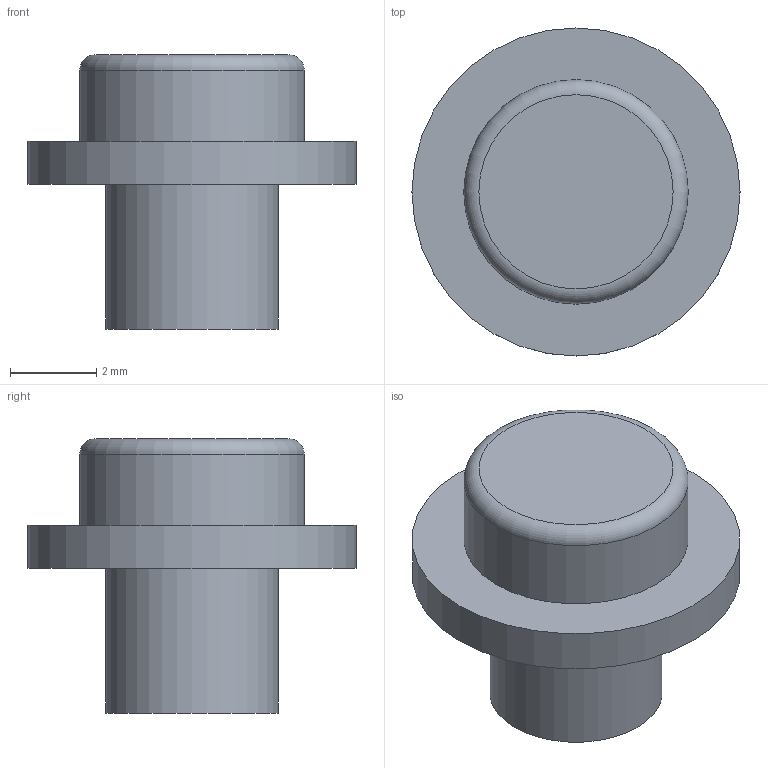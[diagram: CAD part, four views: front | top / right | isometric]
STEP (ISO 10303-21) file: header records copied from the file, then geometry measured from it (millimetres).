
FILE_DESCRIPTION(('Open CASCADE Model'),'2;1');
FILE_NAME('Open CASCADE Shape Model','2026-09-28T00:01:44',('Author'),( 'Open CASCADE'),'Open CASCADE STEP processor 7.8','Open CASCADE 7.8' ,'Unknown');
FILE_SCHEMA(('AUTOMOTIVE_DESIGN { 1 0 10303 214 1 1 1 1 }'));
Length unit declared in the file: millimetre
Products named in the file (1): Open CASCADE STEP translator 7.8 5
Bounding box: 7.6 x 7.6 x 6.35 mm (x, y, z)
Volume: 129.5 mm3; surface area: 186.9 mm2
Topology: 1 solids, 1 shells, 8 faces, 11 edges, 7 vertices
Faces by surface type: plane 4, cylinder 3, torus 1
Full cylindrical faces by diameter (mm): 4 x1, 5.2 x1, 7.6 x1
Entity records: 328 total; most frequent: DIRECTION 59, CARTESIAN_POINT 49, ORIENTED_EDGE 22, PCURVE 22, DEFINITIONAL_REPRESENTATION 22, LINE 19, VECTOR 19, AXIS2_PLACEMENT_3D 17
